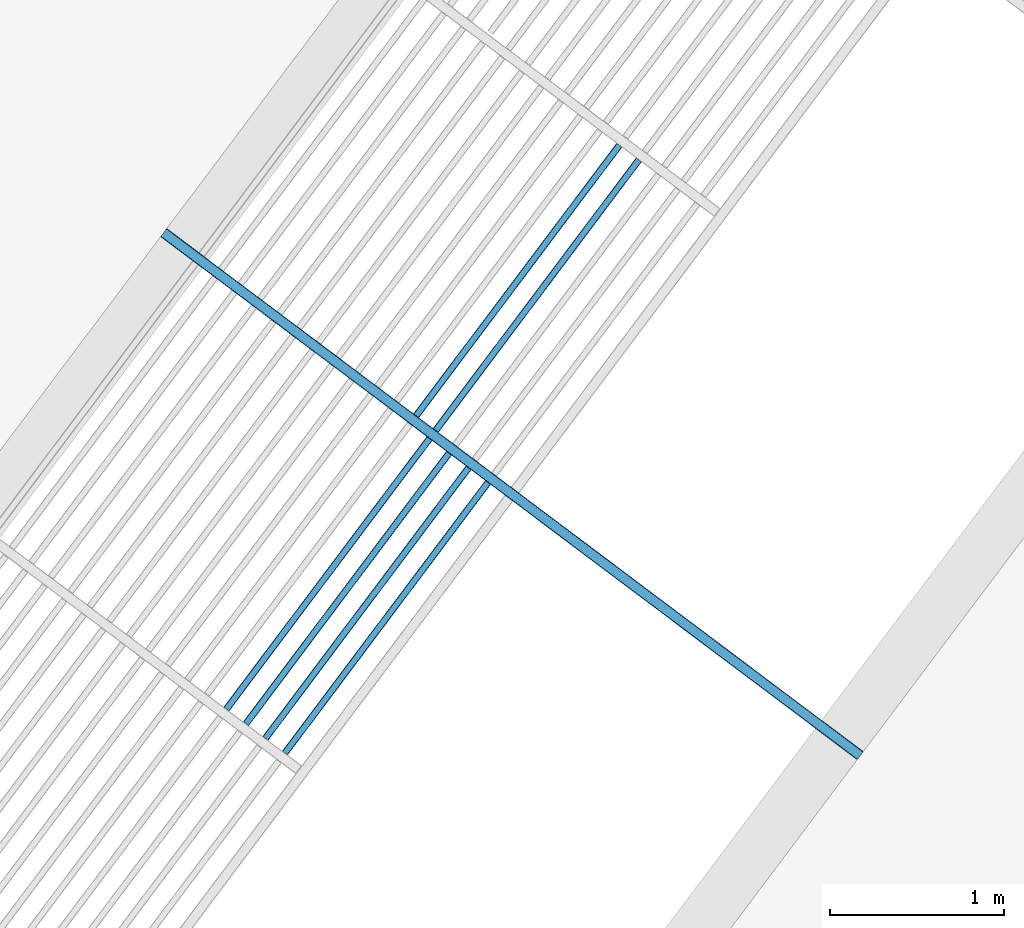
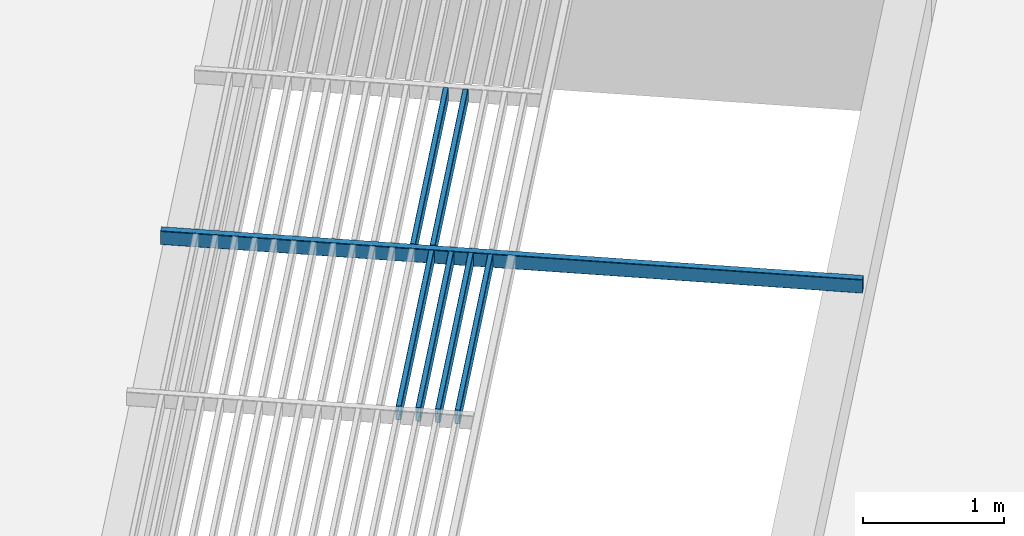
# One storey, part 67 of 95: 7 beams.
"""IFC2X3 building model written with IfcOpenShell, lengths in metres."""

import ifcopenshell
import ifcopenshell.guid

model = None  # the IFC model being written
_history = None  # IfcOwnerHistory: only IFC2X3 demands one
_inside = {}  # id of a spatial element -> (the spatial element, [elements in it])
_under = {}  # id of a project, library or spatial element -> (it, [spatial elements below it])
_declared = {}  # id of a project -> (the project, [libraries it declares])
_typed = {}  # id of a type object -> (the type object, [elements of that type])
_made_of = {}  # id of a material, layer set ... -> (it, [elements and type objects made of it])


def new_model(schema):
    """Start an empty IFC model of exactly this schema.

    Asked for "IFC4X3", IfcOpenShell would pick the latest addendum, in which some entities
    have other attributes; the version numbers below select the first issue.
    IFC2X3 requires an IfcOwnerHistory on every rooted entity: one is made here for all.
    """
    global model, _history
    if schema == "IFC4X3":
        model = ifcopenshell.file(schema_version=(4, 3, 0, 0))
    else:
        model = ifcopenshell.file(schema=schema)
    _inside.clear()
    _under.clear()
    _declared.clear()
    _typed.clear()
    _made_of.clear()
    _history = None
    if model.schema == "IFC2X3":
        org = make("IfcOrganization", Name="unknown")
        user = make(
            "IfcPersonAndOrganization",
            ThePerson=make("IfcPerson", FamilyName="unknown"),
            TheOrganization=org,
        )
        app = make(
            "IfcApplication",
            ApplicationDeveloper=org,
            Version="unknown",
            ApplicationFullName="unknown",
            ApplicationIdentifier="unknown",
        )
        _history = make(
            "IfcOwnerHistory",
            OwningUser=user,
            OwningApplication=app,
            ChangeAction="ADDED",
            CreationDate=0,
        )
    return model


def make(cls, **values):
    """One entity of the class cls with the attributes given. An attribute that is None is left unset."""
    return model.create_entity(
        cls, **{name: value for name, value in values.items() if value is not None}
    )


def entity(cls, *values):
    """Any entity or typed value of the class cls, its attributes in the order of the schema. None: left unset."""
    e = model.create_entity(cls)
    for i, value in enumerate(values):
        if value is not None:
            e[i] = value
    return e


def rooted(cls, **values):
    """An entity with a GlobalId (a new one), such as an element, a storey or a relation."""
    return make(cls, GlobalId=ifcopenshell.guid.new(), OwnerHistory=_history, **values)


def si_unit(unit_type, name, prefix=None):
    """IfcSIUnit, for example si_unit("LENGTHUNIT", "METRE", prefix="MILLI")."""
    return make("IfcSIUnit", UnitType=unit_type, Prefix=prefix, Name=name)


def converted_unit(unit_type, name, factor, base, dimensions=None, offset=None):
    """IfcConversionBasedUnit, such as the inch: factor (a typed value) times the base unit."""
    return make(
        "IfcConversionBasedUnit"
        if offset is None
        else "IfcConversionBasedUnitWithOffset",
        ConversionOffset=offset,
        Dimensions=None
        if dimensions is None
        else entity("IfcDimensionalExponents", *dimensions),
        UnitType=unit_type,
        Name=name,
        ConversionFactor=make(
            "IfcMeasureWithUnit", ValueComponent=factor, UnitComponent=base
        ),
    )


def derived_unit(unit_type, elements):
    """IfcDerivedUnit: a product of units, each with its exponent."""
    return make(
        "IfcDerivedUnit",
        Elements=[
            make("IfcDerivedUnitElement", Unit=unit, Exponent=power)
            for unit, power in elements
        ],
        UnitType=unit_type,
    )


def assignment(units):
    """IfcUnitAssignment: the units of a project."""
    return None if units is None else make("IfcUnitAssignment", Units=units)


def point(xyz):
    """IfcCartesianPoint."""
    return None if xyz is None else make("IfcCartesianPoint", Coordinates=xyz)


def direction(xyz):
    """IfcDirection."""
    return None if xyz is None else make("IfcDirection", DirectionRatios=xyz)


def frame(location, z_axis=None, x_axis=None):
    """IfcAxis2Placement3D, a coordinate frame: its origin and axes. An axis left out is left unset."""
    return make(
        "IfcAxis2Placement3D",
        Location=point(location),
        Axis=direction(z_axis),
        RefDirection=direction(x_axis),
    )


def frame_2d(location, x_axis=None):
    """IfcAxis2Placement2D, a coordinate frame in the plane: its origin and x axis."""
    return make(
        "IfcAxis2Placement2D", Location=point(location), RefDirection=direction(x_axis)
    )


def origin():
    """The frame at (0, 0, 0) with its axes left unset."""
    return frame((0.0, 0.0, 0.0))


def place(relative_to, where):
    """IfcLocalPlacement: puts the frame where relative to a parent placement (None: the world)."""
    return make(
        "IfcLocalPlacement", PlacementRelTo=relative_to, RelativePlacement=where
    )


def context(
    kind, dimensions, precision=None, world=None, true_north=None, identifier=None
):
    """IfcGeometricRepresentationContext, for example the 3D "Model" context."""
    return make(
        "IfcGeometricRepresentationContext",
        ContextIdentifier=identifier,
        ContextType=kind,
        CoordinateSpaceDimension=dimensions,
        Precision=precision,
        WorldCoordinateSystem=world,
        TrueNorth=true_north,
    )


def subcontext(parent, identifier, kind, view, scale=None):
    """IfcGeometricRepresentationSubContext, for example "Body" below "Model"."""
    return make(
        "IfcGeometricRepresentationSubContext",
        ContextIdentifier=identifier,
        ContextType=kind,
        ParentContext=parent,
        TargetScale=scale,
        TargetView=view,
    )


def project(units=None, contexts=None):
    """IfcProject with its units and contexts."""
    return rooted(
        "IfcProject",
        Name="project",
        RepresentationContexts=contexts,
        UnitsInContext=assignment(units),
    )


def spatial(cls, under=None, at=None, **own):
    """A site, building, storey or space (cls), placed at a placement, below another one or the project."""
    s = rooted(cls, ObjectPlacement=at, **own)
    if under is not None:
        _under.setdefault(under.id(), (under, []))[1].append(s)
    return s


def polyline(points):
    """IfcPolyline through the points."""
    return make("IfcPolyline", Points=[point(p) for p in points])


def circle_curve(where, radius):
    """IfcCircle in the frame where."""
    return make("IfcCircle", Position=where, Radius=radius)


def parameter(value):
    """IfcParameterValue: where a trimmed curve begins or ends, as a parameter of its basis curve."""
    return model.create_entity("IfcParameterValue", value)


def trimmed(basis, trim1, trim2, sense, master):
    """IfcTrimmedCurve: the piece of a basis curve between two trims."""
    return make(
        "IfcTrimmedCurve",
        BasisCurve=basis,
        Trim1=trim1,
        Trim2=trim2,
        SenseAgreement=sense,
        MasterRepresentation=master,
    )


def segment(curve, same_sense, transition):
    """IfcCompositeCurveSegment."""
    return make(
        "IfcCompositeCurveSegment",
        Transition=transition,
        SameSense=same_sense,
        ParentCurve=curve,
    )


def composite_curve(segments, self_intersect=None):
    """IfcCompositeCurve: segments joined end to end."""
    return make("IfcCompositeCurve", Segments=segments, SelfIntersect=self_intersect)


def outline(outer, holes=None, kind="AREA"):
    """IfcArbitraryClosedProfileDef: a profile drawn as a closed curve; with holes, ...WithVoids."""
    if holes is None:
        return make("IfcArbitraryClosedProfileDef", ProfileType=kind, OuterCurve=outer)
    return make(
        "IfcArbitraryProfileDefWithVoids",
        ProfileType=kind,
        OuterCurve=outer,
        InnerCurves=holes,
    )


def extrude(swept, where, along, depth):
    """IfcExtrudedAreaSolid: the profile swept, set in the frame where, extruded along a direction by depth."""
    return make(
        "IfcExtrudedAreaSolid",
        SweptArea=swept,
        Position=where,
        ExtrudedDirection=direction(along),
        Depth=depth,
    )


def shape(context_of_items, identifier, shape_type, items):
    """IfcShapeRepresentation: the items that make up one representation, for example the "Body"."""
    return make(
        "IfcShapeRepresentation",
        ContextOfItems=context_of_items,
        RepresentationIdentifier=identifier,
        RepresentationType=shape_type,
        Items=items,
    )


def material(Name=None, Category=None):
    """IfcMaterial."""
    return make("IfcMaterial", Name=Name, Category=Category)


def made_of(thing, what):
    """Note that an element or type object is made of a material, layer set ...; save() writes the relation."""
    if what is not None:
        _made_of.setdefault(what.id(), (what, []))[1].append(thing)
    return thing


def type_object(cls, material=None, **own):
    """A type object (cls), such as IfcWallType, which elements share."""
    return made_of(rooted(cls, **own), material)


def element(
    cls,
    number,
    at=None,
    inside=None,
    cuts=None,
    type_object=None,
    material=None,
    context=None,
    identifier="Body",
    shape_type=None,
    held_by="IfcProductDefinitionShape",
    body=None,
    shapes=None,
    **own,
):
    """One element of the class cls, such as IfcWall. Its Tag is "e" and its number.

    at: its placement. inside: the storey or other place that contains it. cuts: it is an
    opening in that element (IfcRelVoidsElement). A single representation is given by context,
    identifier, shape_type and body (its items); several are given by shapes. held_by: the class
    of the entity that holds the representations. save() writes the other relations.
    """
    e = rooted(cls, Tag="e%d" % number, ObjectPlacement=at, **own)
    if body is not None:
        shapes = [shape(context, identifier, shape_type, body)]
    if shapes is not None:
        e.Representation = make(held_by, Representations=shapes)
    if inside is not None:
        _inside.setdefault(inside.id(), (inside, []))[1].append(e)
    if cuts is not None:
        rooted(
            "IfcRelVoidsElement", RelatingBuildingElement=cuts, RelatedOpeningElement=e
        )
    if type_object is not None:
        _typed.setdefault(type_object.id(), (type_object, []))[1].append(e)
    return made_of(e, material)


def aggregate(whole, parts):
    """IfcRelAggregates: a whole, such as a stair, and the parts it consists of."""
    return rooted("IfcRelAggregates", RelatingObject=whole, RelatedObjects=parts)


def save(model, path):
    """Write the relations noted so far, then the file.

    IfcRelAggregates (storeys below a building ...), IfcRelContainedInSpatialStructure (elements
    in a storey), IfcRelDefinesByType, IfcRelAssociatesMaterial and IfcRelDeclares: one each for
    every whole, place, type object, material and project.
    """
    for whole, parts in _under.values():
        aggregate(whole, parts)
    for where, things in _inside.values():
        rooted(
            "IfcRelContainedInSpatialStructure",
            RelatedElements=things,
            RelatingStructure=where,
        )
    for kind, things in _typed.values():
        rooted("IfcRelDefinesByType", RelatedObjects=things, RelatingType=kind)
    for what, things in _made_of.values():
        rooted("IfcRelAssociatesMaterial", RelatedObjects=things, RelatingMaterial=what)
    for by, libraries in _declared.values():
        rooted("IfcRelDeclares", RelatingContext=by, RelatedDefinitions=libraries)
    model.write(path)


model = new_model("IFC2X3")

# Units and contexts
model_context = context("Model", 3, precision=1e-05, world=origin(), true_north=direction((6.123031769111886e-17, 1.0)))
body_context = subcontext(model_context, "Body", "Model", "MODEL_VIEW")
ifc_project = project(units=[si_unit("LENGTHUNIT", "METRE"), si_unit("AREAUNIT", "SQUARE_METRE"), si_unit("VOLUMEUNIT", "CUBIC_METRE"), converted_unit("PLANEANGLEUNIT", "DEGREE", entity("IfcRatioMeasure", 0.017453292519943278), si_unit("PLANEANGLEUNIT", "RADIAN"), dimensions=[0, 0, 0, 0, 0, 0, 0]), si_unit("MASSUNIT", "GRAM", prefix="KILO"), derived_unit("MASSDENSITYUNIT", [(si_unit("MASSUNIT", "GRAM", prefix="KILO"), 1), (si_unit("LENGTHUNIT", "METRE"), -3)]), derived_unit("IONCONCENTRATIONUNIT", [(si_unit("MASSUNIT", "GRAM", prefix="KILO"), 1), (si_unit("LENGTHUNIT", "METRE"), -3)]), derived_unit("MOMENTOFINERTIAUNIT", [(si_unit("LENGTHUNIT", "METRE"), 4)]), si_unit("TIMEUNIT", "SECOND"), si_unit("FREQUENCYUNIT", "HERTZ"), si_unit("THERMODYNAMICTEMPERATUREUNIT", "DEGREE_CELSIUS"), derived_unit("THERMALTRANSMITTANCEUNIT", [(si_unit("MASSUNIT", "GRAM", prefix="KILO"), 1), (si_unit("THERMODYNAMICTEMPERATUREUNIT", "KELVIN"), -1), (si_unit("TIMEUNIT", "SECOND"), -3)]), derived_unit("THERMALCONDUCTANCEUNIT", [(si_unit("MASSUNIT", "GRAM", prefix="KILO"), 1), (si_unit("THERMODYNAMICTEMPERATUREUNIT", "KELVIN"), -1), (si_unit("TIMEUNIT", "SECOND"), -3), (si_unit("LENGTHUNIT", "METRE"), 1)]), derived_unit("VOLUMETRICFLOWRATEUNIT", [(si_unit("LENGTHUNIT", "METRE"), 3), (si_unit("TIMEUNIT", "SECOND"), -1)]), derived_unit("MASSFLOWRATEUNIT", [(si_unit("MASSUNIT", "GRAM", prefix="KILO"), 1), (si_unit("TIMEUNIT", "SECOND"), -1)]), derived_unit("ROTATIONALFREQUENCYUNIT", [(si_unit("TIMEUNIT", "SECOND"), -1)]), si_unit("ELECTRICCURRENTUNIT", "AMPERE"), si_unit("ELECTRICVOLTAGEUNIT", "VOLT"), si_unit("POWERUNIT", "WATT"), si_unit("FORCEUNIT", "NEWTON", prefix="KILO"), si_unit("ILLUMINANCEUNIT", "LUX"), si_unit("LUMINOUSFLUXUNIT", "LUMEN"), si_unit("LUMINOUSINTENSITYUNIT", "CANDELA"), derived_unit("USERDEFINED", [(si_unit("MASSUNIT", "GRAM", prefix="KILO"), -1), (si_unit("LENGTHUNIT", "METRE"), -2), (si_unit("TIMEUNIT", "SECOND"), 3), (si_unit("LUMINOUSFLUXUNIT", "LUMEN"), 1)]), derived_unit("USERDEFINED", [(si_unit("MASSUNIT", "GRAM", prefix="KILO"), 1), (si_unit("TIMEUNIT", "SECOND"), -3), (si_unit("LENGTHUNIT", "METRE"), 3), (si_unit("ELECTRICCURRENTUNIT", "AMPERE"), -2)]), derived_unit("SOUNDPOWERUNIT", [(si_unit("MASSUNIT", "GRAM", prefix="KILO"), 1), (si_unit("TIMEUNIT", "SECOND"), -3), (si_unit("LENGTHUNIT", "METRE"), 2)]), derived_unit("SOUNDPRESSUREUNIT", [(si_unit("MASSUNIT", "GRAM", prefix="KILO"), 1), (si_unit("LENGTHUNIT", "METRE"), -1), (si_unit("TIMEUNIT", "SECOND"), -2)]), derived_unit("LINEARVELOCITYUNIT", [(si_unit("LENGTHUNIT", "METRE"), 1), (si_unit("TIMEUNIT", "SECOND"), -1)]), si_unit("PRESSUREUNIT", "PASCAL"), derived_unit("USERDEFINED", [(si_unit("MASSUNIT", "GRAM", prefix="KILO"), 1), (si_unit("LENGTHUNIT", "METRE"), -2), (si_unit("TIMEUNIT", "SECOND"), -2)]), derived_unit("LINEARFORCEUNIT", [(si_unit("MASSUNIT", "GRAM", prefix="KILO"), 1), (si_unit("TIMEUNIT", "SECOND"), -2)]), derived_unit("PLANARFORCEUNIT", [(si_unit("MASSUNIT", "GRAM", prefix="KILO"), 1), (si_unit("LENGTHUNIT", "METRE"), -1), (si_unit("TIMEUNIT", "SECOND"), -2)]), derived_unit("SPECIFICHEATCAPACITYUNIT", [(si_unit("THERMODYNAMICTEMPERATUREUNIT", "KELVIN"), -1), (si_unit("LENGTHUNIT", "METRE"), 2), (si_unit("TIMEUNIT", "SECOND"), -2)]), derived_unit("HEATINGVALUEUNIT", [(si_unit("LENGTHUNIT", "METRE"), 2), (si_unit("TIMEUNIT", "SECOND"), -2)]), derived_unit("VAPORPERMEABILITYUNIT", [(si_unit("LENGTHUNIT", "METRE"), -1), (si_unit("TIMEUNIT", "SECOND"), 1)]), derived_unit("DYNAMICVISCOSITYUNIT", [(si_unit("MASSUNIT", "GRAM", prefix="KILO"), 1), (si_unit("TIMEUNIT", "SECOND"), -1), (si_unit("LENGTHUNIT", "METRE"), -1)]), derived_unit("THERMALEXPANSIONCOEFFICIENTUNIT", [(si_unit("THERMODYNAMICTEMPERATUREUNIT", "KELVIN"), -1)]), derived_unit("MODULUSOFELASTICITYUNIT", [(si_unit("MASSUNIT", "GRAM", prefix="KILO"), 1), (si_unit("LENGTHUNIT", "METRE"), -1), (si_unit("TIMEUNIT", "SECOND"), -2)]), derived_unit("ISOTHERMALMOISTURECAPACITYUNIT", [(si_unit("LENGTHUNIT", "METRE"), 3), (si_unit("MASSUNIT", "GRAM", prefix="KILO"), -1)]), derived_unit("MOISTUREDIFFUSIVITYUNIT", [(si_unit("TIMEUNIT", "SECOND"), -1), (si_unit("LENGTHUNIT", "METRE"), 2)])], contexts=[model_context])

# Site, building, storey
site_placement = place(None, origin())
site = spatial("IfcSite", under=ifc_project, at=site_placement, Name="Default", CompositionType="ELEMENT")
building_placement = place(site_placement, frame((0.0, 0.0, 235.0), z_axis=(0.0, 0.0, 1.0), x_axis=(-0.7996477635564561, 0.6004693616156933, 0.0)))
building = spatial("IfcBuilding", under=site, at=building_placement, CompositionType="ELEMENT")
storey_placement = place(building_placement, frame((0.0, 0.0, 3.400000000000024)))
storey = spatial("IfcBuildingStorey", under=building, at=storey_placement, Name="PC- Coberta STR", CompositionType="ELEMENT", Elevation=3.400000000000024)

# Beams
ifc_material = material(Name="_Acer- STR")
beam_type_1 = type_object("IfcBeamType", Name="STR- V- Acer- RHS- Rectangular- T1:120x60RHS", PredefinedType="NOTDEFINED")
beam_1_placement = place(storey_placement, frame((36.34514768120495, -32.446787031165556, 0.49840472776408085), z_axis=(0.0, 0.0, 1.0), x_axis=(-1.0, 0.0, 0.0)))
element("IfcBeam", 1, at=beam_1_placement, inside=storey, type_object=beam_type_1, material=ifc_material, Name="STR- V- Acer- RHS- Rectangular- T1:120x60RHS", ObjectType="STR- V- Acer- RHS- Rectangular- T1:120x60RHS", context=body_context, shape_type="SweptSolid", body=[
    extrude(outline(composite_curve([segment(trimmed(circle_curve(frame_2d((-0.02199999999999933, -0.05200000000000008), x_axis=(1.0, 0.0)), 0.008), [parameter(180.0000000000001)], [parameter(269.99999999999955)], True, "PARAMETER"), True, "CONTINUOUS"), segment(polyline([(-0.022000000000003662, -0.05999999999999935), (0.021999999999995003, -0.05999999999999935)]), True, "CONTINUOUS"), segment(trimmed(circle_curve(frame_2d((0.021999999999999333, -0.05200000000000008), x_axis=(1.0, 0.0)), 0.008), [parameter(269.99999999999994)], [parameter(5.088887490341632e-14)], True, "PARAMETER"), True, "CONTINUOUS"), segment(polyline([(0.029999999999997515, -0.05199999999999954), (0.029999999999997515, 0.052000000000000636)]), True, "CONTINUOUS"), segment(trimmed(circle_curve(frame_2d((0.021999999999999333, 0.052000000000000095), x_axis=(1.0, 0.0)), 0.008), [parameter(359.99999999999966)], [parameter(89.99999999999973)], True, "PARAMETER"), True, "CONTINUOUS"), segment(polyline([(0.021999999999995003, 0.06000000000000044), (-0.022000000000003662, 0.06000000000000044)]), True, "CONTINUOUS"), segment(trimmed(circle_curve(frame_2d((-0.02199999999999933, 0.052000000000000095), x_axis=(1.0, 0.0)), 0.008), [parameter(90.00000000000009)], [parameter(180.00000000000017)], True, "PARAMETER"), True, "CONTINUOUS"), segment(polyline([(-0.03000000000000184, 0.052000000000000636), (-0.03000000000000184, -0.05199999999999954)]), True, "CONTINUOUS")], self_intersect=False), holes=[composite_curve([segment(polyline([(0.021999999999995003, -0.056000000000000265), (-0.022000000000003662, -0.056000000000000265)]), True, "CONTINUOUS"), segment(trimmed(circle_curve(frame_2d((-0.02199999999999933, -0.05200000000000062), x_axis=(1.0, 0.0)), 0.004), [parameter(179.99999999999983)], [parameter(269.9999999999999)], True, "PARAMETER"), False, "CONTINUOUS"), segment(polyline([(-0.02600000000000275, -0.05200000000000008), (-0.02600000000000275, 0.051999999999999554)]), True, "CONTINUOUS"), segment(trimmed(circle_curve(frame_2d((-0.02199999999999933, 0.05199999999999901), x_axis=(1.0, 0.0)), 0.004), [parameter(90.00000000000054)], [parameter(180.00000000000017)], True, "PARAMETER"), False, "CONTINUOUS"), segment(polyline([(-0.022000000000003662, 0.055999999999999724), (0.021999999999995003, 0.055999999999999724)]), True, "CONTINUOUS"), segment(trimmed(circle_curve(frame_2d((0.021999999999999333, 0.05199999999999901), x_axis=(1.0, 0.0)), 0.004), [parameter(0.0)], [parameter(90.00000000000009)], True, "PARAMETER"), False, "CONTINUOUS"), segment(polyline([(0.02599999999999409, 0.051999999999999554), (0.02599999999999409, -0.05200000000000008)]), True, "CONTINUOUS"), segment(trimmed(circle_curve(frame_2d((0.021999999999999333, -0.05200000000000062), x_axis=(1.0, 0.0)), 0.004), [parameter(270.00000000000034)], [parameter(3.5622212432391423e-13)], True, "PARAMETER"), False, "CONTINUOUS")], self_intersect=False)]), frame((-5.0, -0.03159527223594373, 0.061595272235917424), z_axis=(1.0, 0.0, 0.0), x_axis=(0.0, -1.0, 0.0)), (0.0, 0.0, 1.0), 5.000000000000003),
])
beam_type_2 = type_object("IfcBeamType", Name="STR- V- Acer- RHS- Rectangular- T1:120x40RHS -", PredefinedType="NOTDEFINED")
beam_2_placement = place(storey_placement, frame((39.393552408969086, -32.38519175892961, 0.4984047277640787), z_axis=(0.0, 0.0, 1.0), x_axis=(0.0, -1.0, 0.0)))
element("IfcBeam", 2, at=beam_2_placement, inside=storey, type_object=beam_type_2, material=ifc_material, Name="STR- V- Acer- RHS- Rectangular- T1:120x40RHS -", ObjectType="STR- V- Acer- RHS- Rectangular- T1:120x40RHS -", context=body_context, shape_type="SweptSolid", body=[
    extrude(outline(composite_curve([segment(trimmed(circle_curve(frame_2d((-0.01400000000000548, -0.053999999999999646), x_axis=(1.0, 0.0)), 0.006), [parameter(180.0000000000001)], [parameter(269.99999999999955)], True, "PARAMETER"), True, "CONTINUOUS"), segment(polyline([(-0.01400000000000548, -0.0599999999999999), (0.013999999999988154, -0.0599999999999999)]), True, "CONTINUOUS"), segment(trimmed(circle_curve(frame_2d((0.013999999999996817, -0.053999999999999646), x_axis=(1.0, 0.0)), 0.006), [parameter(269.99999999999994)], [parameter(1.0177774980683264e-13)], True, "PARAMETER"), True, "CONTINUOUS"), segment(polyline([(0.019999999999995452, -0.053999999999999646), (0.019999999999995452, 0.05400000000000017)]), True, "CONTINUOUS"), segment(trimmed(circle_curve(frame_2d((0.013999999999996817, 0.05400000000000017), x_axis=(1.0, 0.0)), 0.006), [parameter(359.9999999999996)], [parameter(89.99999999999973)], True, "PARAMETER"), True, "CONTINUOUS"), segment(polyline([(0.013999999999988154, 0.059999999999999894), (-0.01400000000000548, 0.059999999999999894)]), True, "CONTINUOUS"), segment(trimmed(circle_curve(frame_2d((-0.01400000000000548, 0.05400000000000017), x_axis=(1.0, 0.0)), 0.006), [parameter(90.00000000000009)], [parameter(180.00000000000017)], True, "PARAMETER"), True, "CONTINUOUS"), segment(polyline([(-0.02000000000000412, 0.05400000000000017), (-0.02000000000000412, -0.05400000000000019)]), True, "CONTINUOUS")], self_intersect=False), holes=[composite_curve([segment(polyline([(0.013999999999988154, -0.05700000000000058), (-0.01400000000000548, -0.05700000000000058)]), True, "CONTINUOUS"), segment(trimmed(circle_curve(frame_2d((-0.01400000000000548, -0.05400000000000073), x_axis=(1.0, 0.0)), 0.003), [parameter(179.99999999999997)], [parameter(269.9999999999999)], True, "PARAMETER"), False, "CONTINUOUS"), segment(polyline([(-0.017000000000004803, -0.05400000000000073), (-0.017000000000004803, 0.05399999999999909)]), True, "CONTINUOUS"), segment(trimmed(circle_curve(frame_2d((-0.01400000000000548, 0.05399999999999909), x_axis=(1.0, 0.0)), 0.003), [parameter(90.00000000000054)], [parameter(180.0000000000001)], True, "PARAMETER"), False, "CONTINUOUS"), segment(polyline([(-0.01400000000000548, 0.056999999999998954), (0.013999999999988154, 0.056999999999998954)]), True, "CONTINUOUS"), segment(trimmed(circle_curve(frame_2d((0.013999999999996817, 0.05399999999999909), x_axis=(1.0, 0.0)), 0.003), [parameter(0.0)], [parameter(90.00000000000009)], True, "PARAMETER"), False, "CONTINUOUS"), segment(polyline([(0.016999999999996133, 0.05399999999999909), (0.016999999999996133, -0.05400000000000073)]), True, "CONTINUOUS"), segment(trimmed(circle_curve(frame_2d((0.013999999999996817, -0.05400000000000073), x_axis=(1.0, 0.0)), 0.003), [parameter(270.00000000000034)], [parameter(3.053332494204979e-13)], True, "PARAMETER"), False, "CONTINUOUS")], self_intersect=False)]), frame((-1.9399999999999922, 0.02159527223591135, 0.06159527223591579), z_axis=(1.0, 0.0, 0.0), x_axis=(0.0, -1.0, 0.0)), (0.0, 0.0, 1.0), 1.9399999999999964),
])
beam_3_placement = place(storey_placement, frame((39.2535524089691, -32.38519175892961, 0.4984047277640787), z_axis=(0.0, 0.0, 1.0), x_axis=(0.0, -1.0, 0.0)))
element("IfcBeam", 3, at=beam_3_placement, inside=storey, type_object=beam_type_2, material=ifc_material, Name="STR- V- Acer- RHS- Rectangular- T1:120x40RHS -", ObjectType="STR- V- Acer- RHS- Rectangular- T1:120x40RHS -", context=body_context, shape_type="SweptSolid", body=[
    extrude(outline(composite_curve([segment(trimmed(circle_curve(frame_2d((-0.01399999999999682, -0.053999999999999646), x_axis=(1.0, 0.0)), 0.006), [parameter(180.0000000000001)], [parameter(269.99999999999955)], True, "PARAMETER"), True, "CONTINUOUS"), segment(polyline([(-0.01399999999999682, -0.0599999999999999), (0.013999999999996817, -0.0599999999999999)]), True, "CONTINUOUS"), segment(trimmed(circle_curve(frame_2d((0.014000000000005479, -0.053999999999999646), x_axis=(1.0, 0.0)), 0.006), [parameter(269.99999999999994)], [parameter(1.0177774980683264e-13)], True, "PARAMETER"), True, "CONTINUOUS"), segment(polyline([(0.020000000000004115, -0.053999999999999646), (0.020000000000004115, 0.05400000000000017)]), True, "CONTINUOUS"), segment(trimmed(circle_curve(frame_2d((0.014000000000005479, 0.05400000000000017), x_axis=(1.0, 0.0)), 0.006), [parameter(359.9999999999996)], [parameter(89.99999999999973)], True, "PARAMETER"), True, "CONTINUOUS"), segment(polyline([(0.013999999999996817, 0.059999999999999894), (-0.01399999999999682, 0.059999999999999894)]), True, "CONTINUOUS"), segment(trimmed(circle_curve(frame_2d((-0.01399999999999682, 0.05400000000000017), x_axis=(1.0, 0.0)), 0.006), [parameter(90.00000000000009)], [parameter(180.00000000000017)], True, "PARAMETER"), True, "CONTINUOUS"), segment(polyline([(-0.019999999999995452, 0.05400000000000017), (-0.019999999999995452, -0.05400000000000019)]), True, "CONTINUOUS")], self_intersect=False), holes=[composite_curve([segment(polyline([(0.013999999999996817, -0.05700000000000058), (-0.01399999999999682, -0.05700000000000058)]), True, "CONTINUOUS"), segment(trimmed(circle_curve(frame_2d((-0.01399999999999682, -0.05400000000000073), x_axis=(1.0, 0.0)), 0.003), [parameter(179.99999999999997)], [parameter(269.9999999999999)], True, "PARAMETER"), False, "CONTINUOUS"), segment(polyline([(-0.016999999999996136, -0.05400000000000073), (-0.016999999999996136, 0.05399999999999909)]), True, "CONTINUOUS"), segment(trimmed(circle_curve(frame_2d((-0.01399999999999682, 0.05399999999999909), x_axis=(1.0, 0.0)), 0.003), [parameter(90.00000000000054)], [parameter(180.0000000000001)], True, "PARAMETER"), False, "CONTINUOUS"), segment(polyline([(-0.01399999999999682, 0.056999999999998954), (0.013999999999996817, 0.056999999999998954)]), True, "CONTINUOUS"), segment(trimmed(circle_curve(frame_2d((0.014000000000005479, 0.05399999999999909), x_axis=(1.0, 0.0)), 0.003), [parameter(0.0)], [parameter(90.00000000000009)], True, "PARAMETER"), False, "CONTINUOUS"), segment(polyline([(0.017000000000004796, 0.05399999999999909), (0.017000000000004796, -0.05400000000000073)]), True, "CONTINUOUS"), segment(trimmed(circle_curve(frame_2d((0.014000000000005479, -0.05400000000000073), x_axis=(1.0, 0.0)), 0.003), [parameter(270.00000000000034)], [parameter(3.053332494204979e-13)], True, "PARAMETER"), False, "CONTINUOUS")], self_intersect=False)]), frame((-1.9399999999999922, 0.02159527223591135, 0.06159527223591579), z_axis=(1.0, 0.0, 0.0), x_axis=(0.0, -1.0, 0.0)), (0.0, 0.0, 1.0), 1.9399999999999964),
])
beam_4_placement = place(storey_placement, frame((39.1135524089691, -32.38519175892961, 0.4984047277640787), z_axis=(0.0, 0.0, 1.0), x_axis=(0.0, -1.0, 0.0)))
element("IfcBeam", 4, at=beam_4_placement, inside=storey, type_object=beam_type_2, material=ifc_material, Name="STR- V- Acer- RHS- Rectangular- T1:120x40RHS -", ObjectType="STR- V- Acer- RHS- Rectangular- T1:120x40RHS -", context=body_context, shape_type="SweptSolid", body=[
    extrude(outline(composite_curve([segment(trimmed(circle_curve(frame_2d((-0.01400000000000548, -0.053999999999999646), x_axis=(1.0, 0.0)), 0.006), [parameter(180.0000000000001)], [parameter(269.99999999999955)], True, "PARAMETER"), True, "CONTINUOUS"), segment(polyline([(-0.01400000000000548, -0.0599999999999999), (0.013999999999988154, -0.0599999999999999)]), True, "CONTINUOUS"), segment(trimmed(circle_curve(frame_2d((0.013999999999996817, -0.053999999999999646), x_axis=(1.0, 0.0)), 0.006), [parameter(269.99999999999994)], [parameter(1.0177774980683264e-13)], True, "PARAMETER"), True, "CONTINUOUS"), segment(polyline([(0.019999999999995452, -0.053999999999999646), (0.019999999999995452, 0.05400000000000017)]), True, "CONTINUOUS"), segment(trimmed(circle_curve(frame_2d((0.013999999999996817, 0.05400000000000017), x_axis=(1.0, 0.0)), 0.006), [parameter(359.9999999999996)], [parameter(89.99999999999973)], True, "PARAMETER"), True, "CONTINUOUS"), segment(polyline([(0.013999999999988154, 0.059999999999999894), (-0.01400000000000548, 0.059999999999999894)]), True, "CONTINUOUS"), segment(trimmed(circle_curve(frame_2d((-0.01400000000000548, 0.05400000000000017), x_axis=(1.0, 0.0)), 0.006), [parameter(90.00000000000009)], [parameter(180.00000000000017)], True, "PARAMETER"), True, "CONTINUOUS"), segment(polyline([(-0.02000000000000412, 0.05400000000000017), (-0.02000000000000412, -0.05400000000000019)]), True, "CONTINUOUS")], self_intersect=False), holes=[composite_curve([segment(polyline([(0.013999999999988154, -0.05700000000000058), (-0.01400000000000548, -0.05700000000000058)]), True, "CONTINUOUS"), segment(trimmed(circle_curve(frame_2d((-0.01400000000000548, -0.05400000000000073), x_axis=(1.0, 0.0)), 0.003), [parameter(179.99999999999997)], [parameter(269.9999999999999)], True, "PARAMETER"), False, "CONTINUOUS"), segment(polyline([(-0.017000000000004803, -0.05400000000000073), (-0.017000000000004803, 0.05399999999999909)]), True, "CONTINUOUS"), segment(trimmed(circle_curve(frame_2d((-0.01400000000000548, 0.05399999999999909), x_axis=(1.0, 0.0)), 0.003), [parameter(90.00000000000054)], [parameter(180.0000000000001)], True, "PARAMETER"), False, "CONTINUOUS"), segment(polyline([(-0.01400000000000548, 0.056999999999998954), (0.013999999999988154, 0.056999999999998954)]), True, "CONTINUOUS"), segment(trimmed(circle_curve(frame_2d((0.013999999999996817, 0.05399999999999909), x_axis=(1.0, 0.0)), 0.003), [parameter(0.0)], [parameter(90.00000000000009)], True, "PARAMETER"), False, "CONTINUOUS"), segment(polyline([(0.016999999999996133, 0.05399999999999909), (0.016999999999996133, -0.05400000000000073)]), True, "CONTINUOUS"), segment(trimmed(circle_curve(frame_2d((0.013999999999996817, -0.05400000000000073), x_axis=(1.0, 0.0)), 0.003), [parameter(270.00000000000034)], [parameter(3.053332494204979e-13)], True, "PARAMETER"), False, "CONTINUOUS")], self_intersect=False)]), frame((-1.9399999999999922, 0.02159527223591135, 0.06159527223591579), z_axis=(1.0, 0.0, 0.0), x_axis=(0.0, -1.0, 0.0)), (0.0, 0.0, 1.0), 1.9399999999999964),
])
beam_5_placement = place(storey_placement, frame((38.97355240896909, -32.38519175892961, 0.4984047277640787), z_axis=(0.0, 0.0, 1.0), x_axis=(0.0, -1.0, 0.0)))
element("IfcBeam", 5, at=beam_5_placement, inside=storey, type_object=beam_type_2, material=ifc_material, Name="STR- V- Acer- RHS- Rectangular- T1:120x40RHS -", ObjectType="STR- V- Acer- RHS- Rectangular- T1:120x40RHS -", context=body_context, shape_type="SweptSolid", body=[
    extrude(outline(composite_curve([segment(trimmed(circle_curve(frame_2d((-0.01400000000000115, -0.053999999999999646), x_axis=(1.0, 0.0)), 0.006), [parameter(180.0000000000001)], [parameter(269.99999999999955)], True, "PARAMETER"), True, "CONTINUOUS"), segment(polyline([(-0.01400000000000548, -0.0599999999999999), (0.013999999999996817, -0.0599999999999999)]), True, "CONTINUOUS"), segment(trimmed(circle_curve(frame_2d((0.013999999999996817, -0.053999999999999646), x_axis=(1.0, 0.0)), 0.006), [parameter(269.99999999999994)], [parameter(1.0177774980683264e-13)], True, "PARAMETER"), True, "CONTINUOUS"), segment(polyline([(0.019999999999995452, -0.053999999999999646), (0.019999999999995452, 0.05400000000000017)]), True, "CONTINUOUS"), segment(trimmed(circle_curve(frame_2d((0.013999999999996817, 0.05400000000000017), x_axis=(1.0, 0.0)), 0.006), [parameter(359.9999999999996)], [parameter(89.99999999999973)], True, "PARAMETER"), True, "CONTINUOUS"), segment(polyline([(0.013999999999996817, 0.059999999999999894), (-0.01400000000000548, 0.059999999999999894)]), True, "CONTINUOUS"), segment(trimmed(circle_curve(frame_2d((-0.01400000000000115, 0.05400000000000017), x_axis=(1.0, 0.0)), 0.006), [parameter(90.00000000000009)], [parameter(180.00000000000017)], True, "PARAMETER"), True, "CONTINUOUS"), segment(polyline([(-0.02000000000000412, 0.05400000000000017), (-0.02000000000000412, -0.05400000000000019)]), True, "CONTINUOUS")], self_intersect=False), holes=[composite_curve([segment(polyline([(0.013999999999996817, -0.05700000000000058), (-0.01400000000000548, -0.05700000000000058)]), True, "CONTINUOUS"), segment(trimmed(circle_curve(frame_2d((-0.01400000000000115, -0.05400000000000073), x_axis=(1.0, 0.0)), 0.003), [parameter(179.99999999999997)], [parameter(269.9999999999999)], True, "PARAMETER"), False, "CONTINUOUS"), segment(polyline([(-0.017000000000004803, -0.05400000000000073), (-0.017000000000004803, 0.05399999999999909)]), True, "CONTINUOUS"), segment(trimmed(circle_curve(frame_2d((-0.01400000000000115, 0.05399999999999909), x_axis=(1.0, 0.0)), 0.003), [parameter(90.00000000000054)], [parameter(180.0000000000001)], True, "PARAMETER"), False, "CONTINUOUS"), segment(polyline([(-0.01400000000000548, 0.056999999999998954), (0.013999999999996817, 0.056999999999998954)]), True, "CONTINUOUS"), segment(trimmed(circle_curve(frame_2d((0.013999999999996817, 0.05399999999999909), x_axis=(1.0, 0.0)), 0.003), [parameter(0.0)], [parameter(90.00000000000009)], True, "PARAMETER"), False, "CONTINUOUS"), segment(polyline([(0.016999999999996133, 0.05399999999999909), (0.016999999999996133, -0.05400000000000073)]), True, "CONTINUOUS"), segment(trimmed(circle_curve(frame_2d((0.013999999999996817, -0.05400000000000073), x_axis=(1.0, 0.0)), 0.003), [parameter(270.00000000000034)], [parameter(3.053332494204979e-13)], True, "PARAMETER"), False, "CONTINUOUS")], self_intersect=False)]), frame((-1.9399999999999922, 0.02159527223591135, 0.06159527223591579), z_axis=(1.0, 0.0, 0.0), x_axis=(0.0, -1.0, 0.0)), (0.0, 0.0, 1.0), 1.9399999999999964),
])
beam_6_placement = place(storey_placement, frame((39.533552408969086, -34.38519175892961, 0.4984047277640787), z_axis=(0.0, 0.0, 1.0), x_axis=(0.0, -1.0, 0.0)))
element("IfcBeam", 6, at=beam_6_placement, inside=storey, type_object=beam_type_2, material=ifc_material, Name="STR- V- Acer- RHS- Rectangular- T1:120x40RHS -", ObjectType="STR- V- Acer- RHS- Rectangular- T1:120x40RHS -", context=body_context, shape_type="SweptSolid", body=[
    extrude(outline(composite_curve([segment(trimmed(circle_curve(frame_2d((-0.013999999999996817, -0.053999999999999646), x_axis=(1.0, 0.0)), 0.006), [parameter(180.0000000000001)], [parameter(269.99999999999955)], True, "PARAMETER"), True, "CONTINUOUS"), segment(polyline([(-0.013999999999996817, -0.0599999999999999), (0.013999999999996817, -0.0599999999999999)]), True, "CONTINUOUS"), segment(trimmed(circle_curve(frame_2d((0.01400000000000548, -0.053999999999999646), x_axis=(1.0, 0.0)), 0.006), [parameter(269.99999999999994)], [parameter(1.0177774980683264e-13)], True, "PARAMETER"), True, "CONTINUOUS"), segment(polyline([(0.020000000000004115, -0.053999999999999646), (0.020000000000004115, 0.05400000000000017)]), True, "CONTINUOUS"), segment(trimmed(circle_curve(frame_2d((0.01400000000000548, 0.05400000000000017), x_axis=(1.0, 0.0)), 0.006), [parameter(359.9999999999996)], [parameter(89.99999999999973)], True, "PARAMETER"), True, "CONTINUOUS"), segment(polyline([(0.013999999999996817, 0.059999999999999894), (-0.013999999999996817, 0.059999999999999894)]), True, "CONTINUOUS"), segment(trimmed(circle_curve(frame_2d((-0.013999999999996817, 0.05400000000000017), x_axis=(1.0, 0.0)), 0.006), [parameter(90.00000000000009)], [parameter(180.00000000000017)], True, "PARAMETER"), True, "CONTINUOUS"), segment(polyline([(-0.019999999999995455, 0.05400000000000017), (-0.019999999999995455, -0.05400000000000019)]), True, "CONTINUOUS")], self_intersect=False), holes=[composite_curve([segment(polyline([(0.013999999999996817, -0.05700000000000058), (-0.013999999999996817, -0.05700000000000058)]), True, "CONTINUOUS"), segment(trimmed(circle_curve(frame_2d((-0.013999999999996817, -0.05400000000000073), x_axis=(1.0, 0.0)), 0.003), [parameter(179.99999999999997)], [parameter(269.9999999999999)], True, "PARAMETER"), False, "CONTINUOUS"), segment(polyline([(-0.01699999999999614, -0.05400000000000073), (-0.01699999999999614, 0.05399999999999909)]), True, "CONTINUOUS"), segment(trimmed(circle_curve(frame_2d((-0.013999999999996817, 0.05399999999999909), x_axis=(1.0, 0.0)), 0.003), [parameter(90.00000000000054)], [parameter(180.0000000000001)], True, "PARAMETER"), False, "CONTINUOUS"), segment(polyline([(-0.013999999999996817, 0.056999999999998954), (0.013999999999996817, 0.056999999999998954)]), True, "CONTINUOUS"), segment(trimmed(circle_curve(frame_2d((0.01400000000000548, 0.05399999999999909), x_axis=(1.0, 0.0)), 0.003), [parameter(0.0)], [parameter(90.00000000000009)], True, "PARAMETER"), False, "CONTINUOUS"), segment(polyline([(0.017000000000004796, 0.05399999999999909), (0.017000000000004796, -0.05400000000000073)]), True, "CONTINUOUS"), segment(trimmed(circle_curve(frame_2d((0.01400000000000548, -0.05400000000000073), x_axis=(1.0, 0.0)), 0.003), [parameter(270.00000000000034)], [parameter(3.053332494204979e-13)], True, "PARAMETER"), False, "CONTINUOUS")], self_intersect=False)]), frame((-1.9399999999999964, 0.021595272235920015, 0.06159527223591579), z_axis=(1.0, 0.0, 0.0), x_axis=(0.0, -1.0, 0.0)), (0.0, 0.0, 1.0), 1.9399999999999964),
])
beam_7_placement = place(storey_placement, frame((39.393552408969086, -34.38519175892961, 0.4984047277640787), z_axis=(0.0, 0.0, 1.0), x_axis=(0.0, -1.0, 0.0)))
element("IfcBeam", 7, at=beam_7_placement, inside=storey, type_object=beam_type_2, material=ifc_material, Name="STR- V- Acer- RHS- Rectangular- T1:120x40RHS -", ObjectType="STR- V- Acer- RHS- Rectangular- T1:120x40RHS -", context=body_context, shape_type="SweptSolid", body=[
    extrude(outline(composite_curve([segment(trimmed(circle_curve(frame_2d((-0.01400000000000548, -0.053999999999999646), x_axis=(1.0, 0.0)), 0.006), [parameter(180.0000000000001)], [parameter(269.99999999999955)], True, "PARAMETER"), True, "CONTINUOUS"), segment(polyline([(-0.01400000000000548, -0.0599999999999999), (0.013999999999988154, -0.0599999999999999)]), True, "CONTINUOUS"), segment(trimmed(circle_curve(frame_2d((0.013999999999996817, -0.053999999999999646), x_axis=(1.0, 0.0)), 0.006), [parameter(269.99999999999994)], [parameter(1.0177774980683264e-13)], True, "PARAMETER"), True, "CONTINUOUS"), segment(polyline([(0.019999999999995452, -0.053999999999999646), (0.019999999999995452, 0.05400000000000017)]), True, "CONTINUOUS"), segment(trimmed(circle_curve(frame_2d((0.013999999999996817, 0.05400000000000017), x_axis=(1.0, 0.0)), 0.006), [parameter(359.9999999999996)], [parameter(89.99999999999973)], True, "PARAMETER"), True, "CONTINUOUS"), segment(polyline([(0.013999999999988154, 0.059999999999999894), (-0.01400000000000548, 0.059999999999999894)]), True, "CONTINUOUS"), segment(trimmed(circle_curve(frame_2d((-0.01400000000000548, 0.05400000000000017), x_axis=(1.0, 0.0)), 0.006), [parameter(90.00000000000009)], [parameter(180.00000000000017)], True, "PARAMETER"), True, "CONTINUOUS"), segment(polyline([(-0.02000000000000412, 0.05400000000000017), (-0.02000000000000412, -0.05400000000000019)]), True, "CONTINUOUS")], self_intersect=False), holes=[composite_curve([segment(polyline([(0.013999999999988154, -0.05700000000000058), (-0.01400000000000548, -0.05700000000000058)]), True, "CONTINUOUS"), segment(trimmed(circle_curve(frame_2d((-0.01400000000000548, -0.05400000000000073), x_axis=(1.0, 0.0)), 0.003), [parameter(179.99999999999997)], [parameter(269.9999999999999)], True, "PARAMETER"), False, "CONTINUOUS"), segment(polyline([(-0.017000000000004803, -0.05400000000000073), (-0.017000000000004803, 0.05399999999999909)]), True, "CONTINUOUS"), segment(trimmed(circle_curve(frame_2d((-0.01400000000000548, 0.05399999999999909), x_axis=(1.0, 0.0)), 0.003), [parameter(90.00000000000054)], [parameter(180.0000000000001)], True, "PARAMETER"), False, "CONTINUOUS"), segment(polyline([(-0.01400000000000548, 0.056999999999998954), (0.013999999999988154, 0.056999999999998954)]), True, "CONTINUOUS"), segment(trimmed(circle_curve(frame_2d((0.013999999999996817, 0.05399999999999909), x_axis=(1.0, 0.0)), 0.003), [parameter(0.0)], [parameter(90.00000000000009)], True, "PARAMETER"), False, "CONTINUOUS"), segment(polyline([(0.016999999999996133, 0.05399999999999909), (0.016999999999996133, -0.05400000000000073)]), True, "CONTINUOUS"), segment(trimmed(circle_curve(frame_2d((0.013999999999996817, -0.05400000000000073), x_axis=(1.0, 0.0)), 0.003), [parameter(270.00000000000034)], [parameter(3.053332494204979e-13)], True, "PARAMETER"), False, "CONTINUOUS")], self_intersect=False)]), frame((-1.9399999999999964, 0.02159527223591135, 0.06159527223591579), z_axis=(1.0, 0.0, 0.0), x_axis=(0.0, -1.0, 0.0)), (0.0, 0.0, 1.0), 1.9399999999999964),
])

save(model, "model.ifc")
